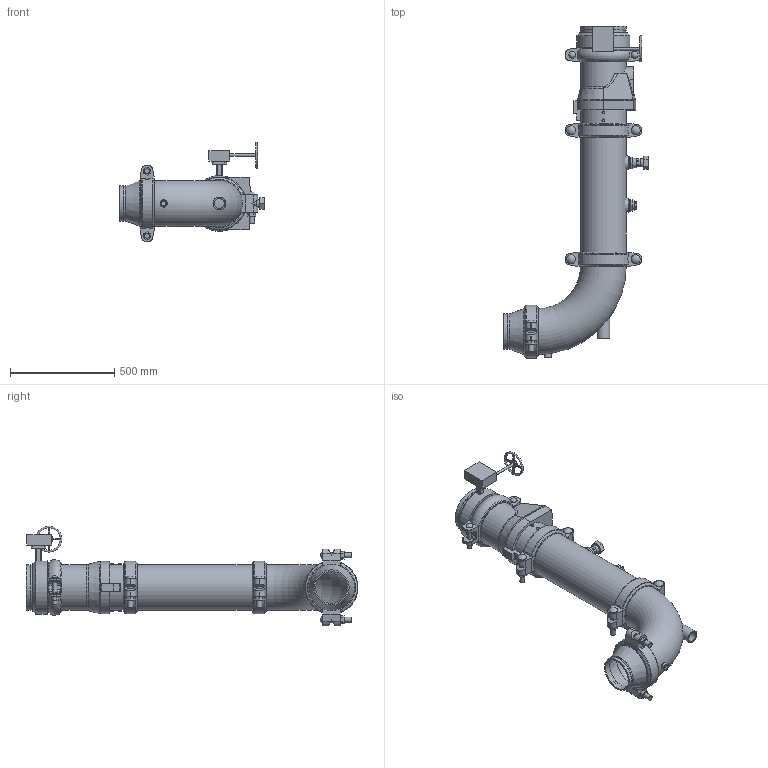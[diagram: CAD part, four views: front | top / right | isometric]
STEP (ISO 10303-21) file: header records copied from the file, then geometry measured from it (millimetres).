
FILE_DESCRIPTION(/* description */ ('VIC DVI PUMP DROP HORZ S/380G (OGSxOGS)','CAx-IF Rec.Pracs.---Representation and Presentation of Product Manufacturing Information (PMI)---4.0---2014-10-13'),/* implementation_level */ '2;1');
FILE_NAME(/* name */ 'C:\Users\kkamble\AppData\Roaming\Autodesk\ApplicationPlugins\Victaulic.Temp\A789\Victaulic_IPS_Horizontal DVI_CL 150_Series 380 (OGSxOGS)_924 (1.25)_08.0x06.0 (200x150).stp',/* time_stamp */ '2021-07-06T09:53:50+05:00',/* author */ ('Vjadhav'),/* organization */ ('Victaulic'),/* preprocessor_version */ 'ST-DEVELOPER v17.2',/* originating_system */ 'Autodesk Inventor 2019',/* authorisation */ '');
FILE_SCHEMA (('AP242_MANAGED_MODEL_BASED_3D_ENGINEERING_MIM_LF { 1 0 10303 442 1 1 4 }'));
Length unit declared in the file: inch
Products named in the file (10): 380_924 (1.25)-08.0x06.0; Pipe-08.0x06.0; 107N-08.0; 924-04.0x01.25; 923-04.0x0.75; 779-08.0; 761-08.0; 100G-08.0; 050-08.0x06.0; 177N-08.0
Assembly tree (11 placements, depth 2):
  380_924 (1.25)-08.0x06.0
    177N-08.0  x3
    Pipe-08.0x06.0
    107N-08.0
    924-04.0x01.25
    923-04.0x0.75
    779-08.0
    761-08.0
    100G-08.0
    050-08.0x06.0
Bounding box: 690.44 x 1588.66 x 477.26 mm (x, y, z)
Volume: 19888641.4 mm3; surface area: 3483456.3 mm2
Topology: 11 solids, 13 shells, 720 faces, 1873 edges, 1252 vertices
Faces by surface type: plane 402, cylinder 240, torus 28, cone 24, bspline 18, sphere 8
Full cylindrical faces by diameter (mm): 8.636 x4, 12.446 x1, 12.7 x1, 13.716 x4, 19.05 x4, 20.93 x1, 21.336 x1, 22.86 x1, 23.774 x6, 26.67 x4, 32.537 x2, 34.29 x1, 38.608 x1, 39.125 x1, 42.164 x1, 42.85 x6, 45.974 x4, 48.26 x1, 48.514 x1, 55.118 x1, 55.626 x2, 60.96 x1, 154.051 x1, 163.957 x1, 168.275 x2, 202.717 x6, 206.375 x4, 214.401 x9, 219.075 x23, 254 x1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
Entity records: 18759 total; most frequent: CARTESIAN_POINT 4465, DIRECTION 2911, ORIENTED_EDGE 2726, EDGE_CURVE 1363, AXIS2_PLACEMENT_3D 1113, VERTEX_POINT 916, LINE 685, VECTOR 685
